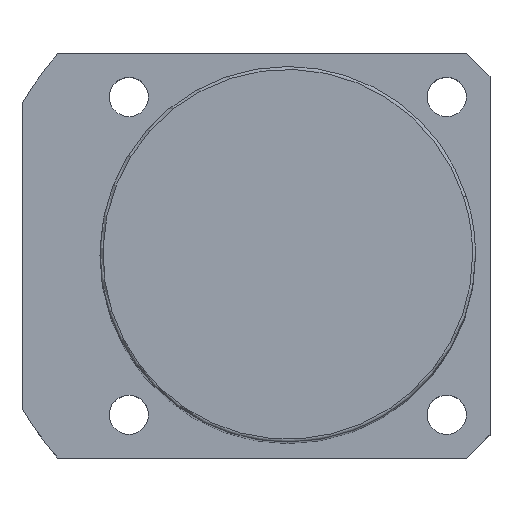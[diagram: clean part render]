
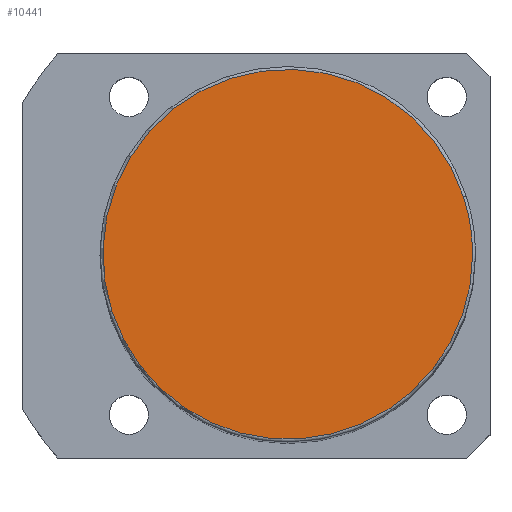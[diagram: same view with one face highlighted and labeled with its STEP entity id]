
A CAD part, top view. The second image highlights one B-rep face of the part: STEP entity #10441.
In plain terms, the highlighted planar face has unit normal (0, 0, 1).
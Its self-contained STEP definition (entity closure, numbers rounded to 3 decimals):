
#10374=CARTESIAN_POINT('',(30.434,9.889,171.0));
#10375=VERTEX_POINT('',#10374);
#10393=CARTESIAN_POINT('',(-30.434,-9.889,171.0));
#10394=VERTEX_POINT('',#10393);
#10402=CARTESIAN_POINT('',(0.0,0.0,171.0));
#10403=DIRECTION('',(0.0,0.0,1.0));
#10404=DIRECTION('',(1.0,0.0,0.0));
#10405=AXIS2_PLACEMENT_3D('',#10402,#10403,#10404);
#10406=CIRCLE('',#10405,32.0);
#10407=EDGE_CURVE('no 4917',#10375,#10394,#10406,.T.);
#10417=CARTESIAN_POINT('',(32.0,0.0,171.0));
#10418=VERTEX_POINT('',#10417);
#10419=CARTESIAN_POINT('',(0.0,0.0,171.0));
#10420=DIRECTION('',(0.0,0.0,1.0));
#10421=DIRECTION('',(1.0,0.0,0.0));
#10422=AXIS2_PLACEMENT_3D('',#10419,#10420,#10421);
#10423=CIRCLE('',#10422,32.0);
#10424=EDGE_CURVE('no 4926',#10418,#10375,#10423,.T.);
#10425=ORIENTED_EDGE('',*,*,#10424,.T.);
#10426=ORIENTED_EDGE('',*,*,#10407,.T.);
#10427=CARTESIAN_POINT('',(0.0,0.0,171.0));
#10428=DIRECTION('',(0.0,0.0,1.0));
#10429=DIRECTION('',(1.0,0.0,0.0));
#10430=AXIS2_PLACEMENT_3D('',#10427,#10428,#10429);
#10431=CIRCLE('',#10430,32.0);
#10432=EDGE_CURVE('no 4932',#10394,#10418,#10431,.T.);
#10433=ORIENTED_EDGE('',*,*,#10432,.T.);
#10434=EDGE_LOOP('',(#10425,#10426,#10433));
#10435=FACE_OUTER_BOUND('',#10434,.T.);
#10436=CARTESIAN_POINT('',(0.0,0.0,171.0));
#10437=DIRECTION('',(0.0,0.0,1.0));
#10438=DIRECTION('',(1.0,0.0,0.0));
#10439=AXIS2_PLACEMENT_3D('',#10436,#10437,#10438);
#10440=PLANE('',#10439);
#10441=ADVANCED_FACE('no 4919',(#10435),#10440,.T.);
